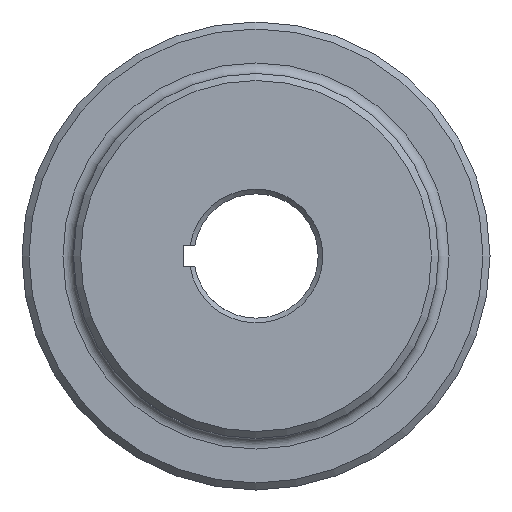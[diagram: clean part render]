
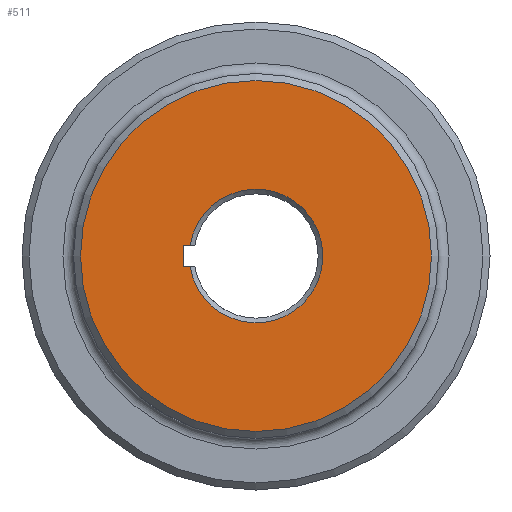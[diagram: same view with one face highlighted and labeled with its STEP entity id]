
A CAD part, left-side view. The second image highlights one B-rep face of the part: STEP entity #511.
In plain terms, the highlighted planar face has unit normal (-1, 0, 0).
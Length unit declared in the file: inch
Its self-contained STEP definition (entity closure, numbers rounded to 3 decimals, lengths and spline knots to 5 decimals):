
#24 = CARTESIAN_POINT ( 'NONE',  ( 0., 0.5638, 0.0935 ) ) ;
#39 = CARTESIAN_POINT ( 'NONE',  ( 0., 0., 0.0935 ) ) ;
#86 = VERTEX_POINT ( 'NONE', #1720 ) ;
#99 = FACE_OUTER_BOUND ( 'NONE', #1428, .T. ) ;
#140 = AXIS2_PLACEMENT_3D ( 'NONE', #546, #710, #1894 ) ;
#180 = EDGE_CURVE ( 'NONE', #2020, #86, #1203, .T. ) ;
#189 = ORIENTED_EDGE ( 'NONE', *, *, #180, .F. ) ;
#193 = CARTESIAN_POINT ( 'NONE',  ( 0., 0.6215, -0.0935 ) ) ;
#211 = AXIS2_PLACEMENT_3D ( 'NONE', #1748, #920, #1230 ) ;
#265 = VECTOR ( 'NONE', #2283, 39.37008 ) ;
#284 = ORIENTED_EDGE ( 'NONE', *, *, #700, .T. ) ;
#390 = ORIENTED_EDGE ( 'NONE', *, *, #741, .T. ) ;
#430 = CARTESIAN_POINT ( 'NONE',  ( 0., 0.6215, 0.0935 ) ) ;
#468 = PLANE ( 'NONE',  #140 ) ;
#511 = ADVANCED_FACE ( 'NONE', ( #99, #919 ), #468, .F. ) ;
#546 = CARTESIAN_POINT ( 'NONE',  ( 0., 0., 0. ) ) ;
#605 = CIRCLE ( 'NONE', #211, 0.5715 ) ;
#610 = ORIENTED_EDGE ( 'NONE', *, *, #2177, .F. ) ;
#674 = DIRECTION ( 'NONE',  ( 0., 0., -1. ) ) ;
#700 = EDGE_CURVE ( 'NONE', #1496, #1265, #605, .T. ) ;
#710 = DIRECTION ( 'NONE',  ( 1., 0., 0. ) ) ;
#717 = VERTEX_POINT ( 'NONE', #1361 ) ;
#741 = EDGE_CURVE ( 'NONE', #717, #717, #2055, .T. ) ;
#919 = FACE_BOUND ( 'NONE', #1181, .T. ) ;
#920 = DIRECTION ( 'NONE',  ( 1., 0., 0. ) ) ;
#948 = VECTOR ( 'NONE', #1543, 39.37008 ) ;
#1044 = LINE ( 'NONE', #39, #265 ) ;
#1100 = ORIENTED_EDGE ( 'NONE', *, *, #2145, .F. ) ;
#1181 = EDGE_LOOP ( 'NONE', ( #610, #284, #1100, #189 ) ) ;
#1203 = LINE ( 'NONE', #193, #948 ) ;
#1230 = DIRECTION ( 'NONE',  ( 0., 0., -1. ) ) ;
#1265 = VERTEX_POINT ( 'NONE', #1838 ) ;
#1353 = CARTESIAN_POINT ( 'NONE',  ( 0., 0., 0. ) ) ;
#1361 = CARTESIAN_POINT ( 'NONE',  ( 0., 0., -1.5 ) ) ;
#1428 = EDGE_LOOP ( 'NONE', ( #390 ) ) ;
#1496 = VERTEX_POINT ( 'NONE', #24 ) ;
#1543 = DIRECTION ( 'NONE',  ( 0., 0., -1. ) ) ;
#1585 = LINE ( 'NONE', #2179, #2037 ) ;
#1711 = AXIS2_PLACEMENT_3D ( 'NONE', #1353, #1972, #674 ) ;
#1720 = CARTESIAN_POINT ( 'NONE',  ( 0., 0.6215, -0.0935 ) ) ;
#1748 = CARTESIAN_POINT ( 'NONE',  ( 0., 0., 0. ) ) ;
#1838 = CARTESIAN_POINT ( 'NONE',  ( 0., 0.5638, -0.0935 ) ) ;
#1894 = DIRECTION ( 'NONE',  ( 0., 0., -1. ) ) ;
#1972 = DIRECTION ( 'NONE',  ( -1., 0., 0. ) ) ;
#2020 = VERTEX_POINT ( 'NONE', #430 ) ;
#2037 = VECTOR ( 'NONE', #2212, 39.37008 ) ;
#2055 = CIRCLE ( 'NONE', #1711, 1.5 ) ;
#2145 = EDGE_CURVE ( 'NONE', #86, #1265, #1585, .T. ) ;
#2177 = EDGE_CURVE ( 'NONE', #1496, #2020, #1044, .T. ) ;
#2179 = CARTESIAN_POINT ( 'NONE',  ( 0., 0., -0.0935 ) ) ;
#2212 = DIRECTION ( 'NONE',  ( 0., -1., 0. ) ) ;
#2283 = DIRECTION ( 'NONE',  ( 0., 1., 0. ) ) ;
